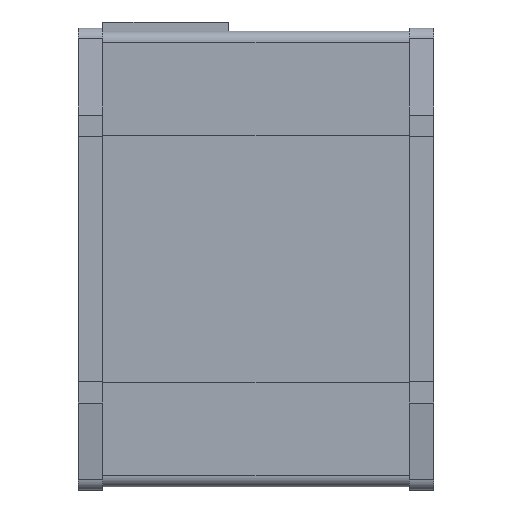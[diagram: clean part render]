
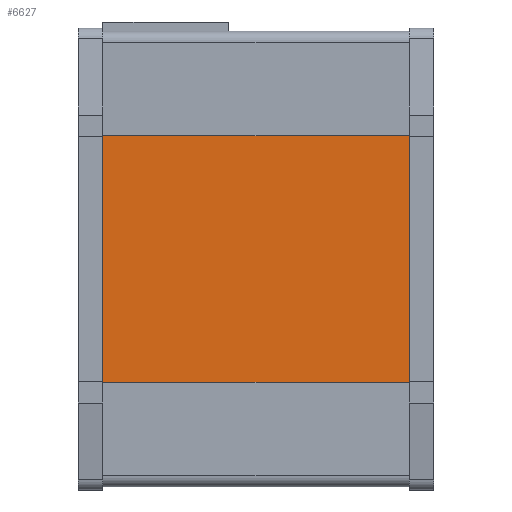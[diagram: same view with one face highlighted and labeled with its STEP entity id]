
A CAD part, front view. The second image highlights one B-rep face of the part: STEP entity #6627.
In plain terms, the highlighted planar face has unit normal (0, -1, 0).
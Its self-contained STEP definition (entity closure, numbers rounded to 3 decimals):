
#415 = DIRECTION ( 'NONE',  ( -1., 0., 0. ) ) ;
#756 = CARTESIAN_POINT ( 'NONE',  ( 4., 3.1, -17.6 ) ) ;
#2347 = VERTEX_POINT ( 'NONE', #756 ) ;
#2719 = LINE ( 'NONE', #7386, #8228 ) ;
#3476 = ORIENTED_EDGE ( 'NONE', *, *, #15476, .T. ) ;
#4496 = DIRECTION ( 'NONE',  ( 0., 0., -1. ) ) ;
#5962 = EDGE_CURVE ( 'NONE', #10733, #2347, #9516, .T. ) ;
#6627 = ADVANCED_FACE ( 'NONE', ( #12286 ), #18454, .F. ) ;
#7386 = CARTESIAN_POINT ( 'NONE',  ( 54., 3.1, -57.8 ) ) ;
#7846 = LINE ( 'NONE', #9156, #10984 ) ;
#7849 = DIRECTION ( 'NONE',  ( 0., 0., 1. ) ) ;
#8228 = VECTOR ( 'NONE', #13523, 1000. ) ;
#9105 = VECTOR ( 'NONE', #4496, 1000. ) ;
#9156 = CARTESIAN_POINT ( 'NONE',  ( 54., 3.1, -57.8 ) ) ;
#9420 = EDGE_CURVE ( 'NONE', #10733, #11537, #7846, .T. ) ;
#9516 = LINE ( 'NONE', #14053, #17931 ) ;
#9651 = ORIENTED_EDGE ( 'NONE', *, *, #17188, .F. ) ;
#10733 = VERTEX_POINT ( 'NONE', #11353 ) ;
#10869 = AXIS2_PLACEMENT_3D ( 'NONE', #16946, #14006, #7849 ) ;
#10984 = VECTOR ( 'NONE', #20000, 1000. ) ;
#11353 = CARTESIAN_POINT ( 'NONE',  ( 54., 3.1, -17.6 ) ) ;
#11537 = VERTEX_POINT ( 'NONE', #15435 ) ;
#11940 = EDGE_LOOP ( 'NONE', ( #3476, #9651, #12128, #13078 ) ) ;
#12128 = ORIENTED_EDGE ( 'NONE', *, *, #9420, .F. ) ;
#12286 = FACE_OUTER_BOUND ( 'NONE', #11940, .T. ) ;
#13078 = ORIENTED_EDGE ( 'NONE', *, *, #5962, .T. ) ;
#13523 = DIRECTION ( 'NONE',  ( -1., 0., 0. ) ) ;
#14006 = DIRECTION ( 'NONE',  ( 0., 1., 0. ) ) ;
#14053 = CARTESIAN_POINT ( 'NONE',  ( 54., 3.1, -17.6 ) ) ;
#14123 = VERTEX_POINT ( 'NONE', #17861 ) ;
#15435 = CARTESIAN_POINT ( 'NONE',  ( 54., 3.1, -57.8 ) ) ;
#15476 = EDGE_CURVE ( 'NONE', #2347, #14123, #15487, .T. ) ;
#15487 = LINE ( 'NONE', #18324, #9105 ) ;
#16946 = CARTESIAN_POINT ( 'NONE',  ( 54., 3.1, -57.8 ) ) ;
#17188 = EDGE_CURVE ( 'NONE', #11537, #14123, #2719, .T. ) ;
#17861 = CARTESIAN_POINT ( 'NONE',  ( 4., 3.1, -57.8 ) ) ;
#17931 = VECTOR ( 'NONE', #415, 1000. ) ;
#18324 = CARTESIAN_POINT ( 'NONE',  ( 4., 3.1, -57.8 ) ) ;
#18454 = PLANE ( 'NONE',  #10869 ) ;
#20000 = DIRECTION ( 'NONE',  ( 0., 0., -1. ) ) ;
